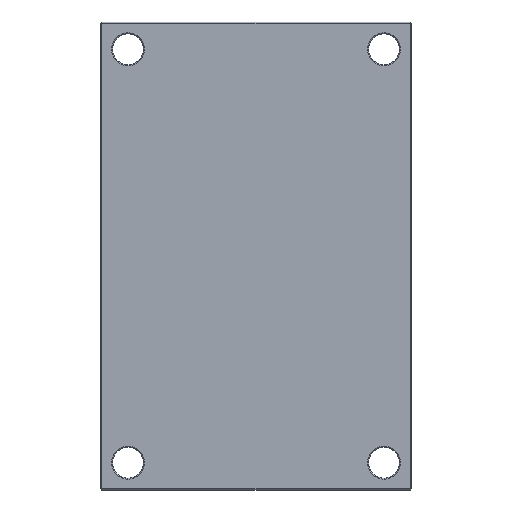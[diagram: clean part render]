
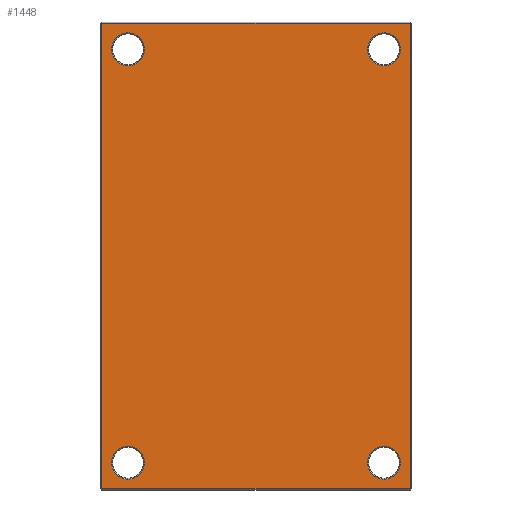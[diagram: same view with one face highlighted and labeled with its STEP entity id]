
A CAD part, front view. The second image highlights one B-rep face of the part: STEP entity #1448.
In plain terms, the highlighted planar face has unit normal (0, -1, 0).
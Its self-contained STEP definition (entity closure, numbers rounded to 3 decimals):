
#62 = FACE_BOUND ( 'NONE', #151, .T. ) ;
#67 = CARTESIAN_POINT ( 'NONE',  ( -147., 0., -222. ) ) ;
#75 = EDGE_LOOP ( 'NONE', ( #1238, #1280 ) ) ;
#80 = ORIENTED_EDGE ( 'NONE', *, *, #2149, .T. ) ;
#101 = CARTESIAN_POINT ( 'NONE',  ( 122., 0., 212.7 ) ) ;
#111 = VERTEX_POINT ( 'NONE', #1207 ) ;
#113 = VERTEX_POINT ( 'NONE', #423 ) ;
#125 = DIRECTION ( 'NONE',  ( 1., 0., 0. ) ) ;
#151 = EDGE_LOOP ( 'NONE', ( #680, #1299 ) ) ;
#159 = DIRECTION ( 'NONE',  ( 0., 0., -1. ) ) ;
#164 = CARTESIAN_POINT ( 'NONE',  ( -147., 0., 0. ) ) ;
#177 = DIRECTION ( 'NONE',  ( 0., 0., 1. ) ) ;
#184 = DIRECTION ( 'NONE',  ( 0., 1., 0. ) ) ;
#194 = VECTOR ( 'NONE', #881, 1000. ) ;
#203 = CARTESIAN_POINT ( 'NONE',  ( -122., 0., 197. ) ) ;
#213 = CIRCLE ( 'NONE', #570, 15.7 ) ;
#240 = DIRECTION ( 'NONE',  ( 0., 0., 1. ) ) ;
#246 = DIRECTION ( 'NONE',  ( 0., 1., 0. ) ) ;
#259 = VECTOR ( 'NONE', #125, 1000. ) ;
#274 = CARTESIAN_POINT ( 'NONE',  ( 122., 0., 197. ) ) ;
#302 = CARTESIAN_POINT ( 'NONE',  ( -122., 0., 181.3 ) ) ;
#306 = VERTEX_POINT ( 'NONE', #348 ) ;
#309 = LINE ( 'NONE', #164, #1085 ) ;
#316 = DIRECTION ( 'NONE',  ( 0., 0., 1. ) ) ;
#318 = ORIENTED_EDGE ( 'NONE', *, *, #2161, .T. ) ;
#330 = DIRECTION ( 'NONE',  ( 0., 1., 0. ) ) ;
#332 = CARTESIAN_POINT ( 'NONE',  ( 122., 0., -197. ) ) ;
#348 = CARTESIAN_POINT ( 'NONE',  ( 147., 0., 222. ) ) ;
#357 = CARTESIAN_POINT ( 'NONE',  ( 147., 0., 0. ) ) ;
#367 = CARTESIAN_POINT ( 'NONE',  ( 0., 0., -222. ) ) ;
#393 = FACE_BOUND ( 'NONE', #2141, .T. ) ;
#400 = CARTESIAN_POINT ( 'NONE',  ( 147., 0., -222. ) ) ;
#404 = VERTEX_POINT ( 'NONE', #1478 ) ;
#423 = CARTESIAN_POINT ( 'NONE',  ( -122., 0., -181.3 ) ) ;
#430 = CARTESIAN_POINT ( 'NONE',  ( 122., 0., -212.7 ) ) ;
#448 = DIRECTION ( 'NONE',  ( 0., 0., 1. ) ) ;
#452 = CARTESIAN_POINT ( 'NONE',  ( -122., 0., 197. ) ) ;
#454 = DIRECTION ( 'NONE',  ( 0., 1., 0. ) ) ;
#457 = VERTEX_POINT ( 'NONE', #67 ) ;
#460 = DIRECTION ( 'NONE',  ( 0., 1., 0. ) ) ;
#469 = CARTESIAN_POINT ( 'NONE',  ( -122., 0., -197. ) ) ;
#472 = DIRECTION ( 'NONE',  ( 0., 0., 1. ) ) ;
#474 = AXIS2_PLACEMENT_3D ( 'NONE', #203, #184, #177 ) ;
#505 = DIRECTION ( 'NONE',  ( 0., 0., 1. ) ) ;
#512 = AXIS2_PLACEMENT_3D ( 'NONE', #274, #246, #240 ) ;
#514 = AXIS2_PLACEMENT_3D ( 'NONE', #332, #330, #316 ) ;
#519 = AXIS2_PLACEMENT_3D ( 'NONE', #469, #454, #448 ) ;
#561 = ORIENTED_EDGE ( 'NONE', *, *, #2148, .T. ) ;
#563 = AXIS2_PLACEMENT_3D ( 'NONE', #452, #1582, #1776 ) ;
#570 = AXIS2_PLACEMENT_3D ( 'NONE', #1213, #1211, #1095 ) ;
#575 = AXIS2_PLACEMENT_3D ( 'NONE', #1382, #460, #800 ) ;
#593 = CARTESIAN_POINT ( 'NONE',  ( -147., 0., 222. ) ) ;
#611 = DIRECTION ( 'NONE',  ( 0., 1., 0. ) ) ;
#627 = AXIS2_PLACEMENT_3D ( 'NONE', #707, #611, #505 ) ;
#672 = VERTEX_POINT ( 'NONE', #101 ) ;
#680 = ORIENTED_EDGE ( 'NONE', *, *, #1985, .T. ) ;
#707 = CARTESIAN_POINT ( 'NONE',  ( 122., 0., 197. ) ) ;
#749 = VERTEX_POINT ( 'NONE', #1255 ) ;
#782 = ORIENTED_EDGE ( 'NONE', *, *, #2155, .T. ) ;
#798 = CIRCLE ( 'NONE', #519, 15.7 ) ;
#800 = DIRECTION ( 'NONE',  ( 0., 0., 1. ) ) ;
#881 = DIRECTION ( 'NONE',  ( -1., 0., 0. ) ) ;
#917 = CARTESIAN_POINT ( 'NONE',  ( 0., 0., 222. ) ) ;
#927 = EDGE_LOOP ( 'NONE', ( #1890, #561 ) ) ;
#1085 = VECTOR ( 'NONE', #159, 1000. ) ;
#1095 = DIRECTION ( 'NONE',  ( 0., 0., 1. ) ) ;
#1127 = LINE ( 'NONE', #357, #2007 ) ;
#1153 = VERTEX_POINT ( 'NONE', #430 ) ;
#1195 = AXIS2_PLACEMENT_3D ( 'NONE', #2000, #1833, #2151 ) ;
#1207 = CARTESIAN_POINT ( 'NONE',  ( -122., 0., 212.7 ) ) ;
#1211 = DIRECTION ( 'NONE',  ( 0., 1., 0. ) ) ;
#1213 = CARTESIAN_POINT ( 'NONE',  ( 122., 0., -197. ) ) ;
#1238 = ORIENTED_EDGE ( 'NONE', *, *, #1961, .T. ) ;
#1255 = CARTESIAN_POINT ( 'NONE',  ( -122., 0., -212.7 ) ) ;
#1280 = ORIENTED_EDGE ( 'NONE', *, *, #2146, .T. ) ;
#1299 = ORIENTED_EDGE ( 'NONE', *, *, #2154, .T. ) ;
#1319 = CIRCLE ( 'NONE', #563, 15.7 ) ;
#1358 = ORIENTED_EDGE ( 'NONE', *, *, #1858, .T. ) ;
#1382 = CARTESIAN_POINT ( 'NONE',  ( -122., 0., -197. ) ) ;
#1427 = LINE ( 'NONE', #917, #194 ) ;
#1448 = ADVANCED_FACE ( 'NONE', ( #2171, #2113, #393, #62, #1686 ), #1998, .F. ) ;
#1453 = CIRCLE ( 'NONE', #575, 15.7 ) ;
#1456 = VERTEX_POINT ( 'NONE', #2166 ) ;
#1478 = CARTESIAN_POINT ( 'NONE',  ( 122., 0., -181.3 ) ) ;
#1514 = LINE ( 'NONE', #367, #259 ) ;
#1576 = CIRCLE ( 'NONE', #512, 15.7 ) ;
#1582 = DIRECTION ( 'NONE',  ( 0., 1., 0. ) ) ;
#1636 = EDGE_LOOP ( 'NONE', ( #782, #1853, #2110, #318 ) ) ;
#1643 = CIRCLE ( 'NONE', #474, 15.7 ) ;
#1686 = FACE_OUTER_BOUND ( 'NONE', #1636, .T. ) ;
#1692 = EDGE_CURVE ( 'NONE', #306, #2026, #1427, .T. ) ;
#1763 = VERTEX_POINT ( 'NONE', #400 ) ;
#1773 = CIRCLE ( 'NONE', #627, 15.7 ) ;
#1776 = DIRECTION ( 'NONE',  ( 0., 0., 1. ) ) ;
#1833 = DIRECTION ( 'NONE',  ( 0., 1., 0. ) ) ;
#1853 = ORIENTED_EDGE ( 'NONE', *, *, #1692, .T. ) ;
#1858 = EDGE_CURVE ( 'NONE', #1456, #672, #1773, .T. ) ;
#1890 = ORIENTED_EDGE ( 'NONE', *, *, #1973, .T. ) ;
#1961 = EDGE_CURVE ( 'NONE', #749, #113, #1453, .T. ) ;
#1973 = EDGE_CURVE ( 'NONE', #1153, #404, #213, .T. ) ;
#1985 = EDGE_CURVE ( 'NONE', #2130, #111, #1319, .T. ) ;
#1998 = PLANE ( 'NONE',  #1195 ) ;
#2000 = CARTESIAN_POINT ( 'NONE',  ( 0., 0., 0. ) ) ;
#2007 = VECTOR ( 'NONE', #472, 1000. ) ;
#2026 = VERTEX_POINT ( 'NONE', #593 ) ;
#2068 = CIRCLE ( 'NONE', #514, 15.7 ) ;
#2110 = ORIENTED_EDGE ( 'NONE', *, *, #2160, .T. ) ;
#2113 = FACE_BOUND ( 'NONE', #927, .T. ) ;
#2130 = VERTEX_POINT ( 'NONE', #302 ) ;
#2141 = EDGE_LOOP ( 'NONE', ( #1358, #80 ) ) ;
#2146 = EDGE_CURVE ( 'NONE', #113, #749, #798, .T. ) ;
#2148 = EDGE_CURVE ( 'NONE', #404, #1153, #2068, .T. ) ;
#2149 = EDGE_CURVE ( 'NONE', #672, #1456, #1576, .T. ) ;
#2151 = DIRECTION ( 'NONE',  ( 0., 0., 1. ) ) ;
#2154 = EDGE_CURVE ( 'NONE', #111, #2130, #1643, .T. ) ;
#2155 = EDGE_CURVE ( 'NONE', #1763, #306, #1127, .T. ) ;
#2160 = EDGE_CURVE ( 'NONE', #2026, #457, #309, .T. ) ;
#2161 = EDGE_CURVE ( 'NONE', #457, #1763, #1514, .T. ) ;
#2166 = CARTESIAN_POINT ( 'NONE',  ( 122., 0., 181.3 ) ) ;
#2171 = FACE_BOUND ( 'NONE', #75, .T. ) ;
